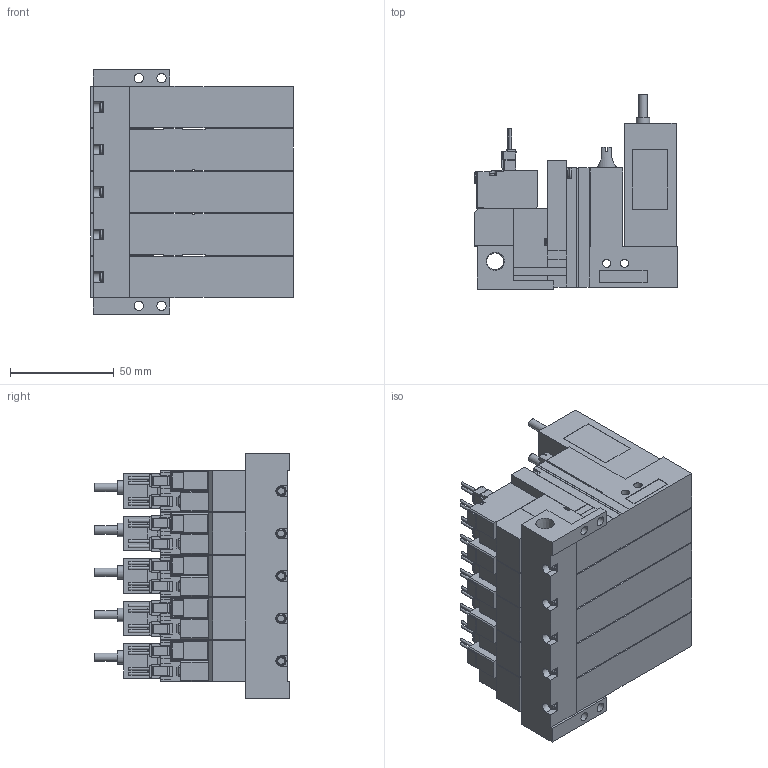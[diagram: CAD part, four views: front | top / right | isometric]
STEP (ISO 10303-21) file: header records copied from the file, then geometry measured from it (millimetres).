
FILE_DESCRIPTION(('STEP AP203'),'1');
FILE_NAME('VG_VGPLC5ALR505.stp','2025-02-19T01:08:47',(' '),(' '),'Spatial InterOp 3D',' ',' ');
FILE_SCHEMA(('CONFIG_CONTROL_DESIGN'));
Length unit declared in the file: millimetre
Products named in the file (5): BMC22M※※※※VG_VGPLC5ALR505; Solenoid valve A; Pressure sensor VGLC; Unit LC; Base MR50R
Assembly tree (16 placements, depth 2):
  BMC22M※※※※VG_VGPLC5ALR505
    Solenoid valve A  x5
    Pressure sensor VGLC  x5
    Unit LC  x5
    Base MR50R
Bounding box: 97.6 x 94 x 118 mm (x, y, z)
Volume: 564289 mm3; surface area: 144681.3 mm2
Topology: 16 solids, 16 shells, 2096 faces, 5609 edges, 3690 vertices
Faces by surface type: plane 1774, cylinder 260, cone 37, torus 25
Full cylindrical faces by diameter (mm): 1.4 x20, 2.5 x15, 3 x20, 3.5 x20, 3.6 x5, 4 x30, 4.134 x5, 4.5 x4, 5.2 x5, 6 x5, 6.5 x5, 6.6 x5, 8.279 x1
Entity records: 15420 total; most frequent: CARTESIAN_POINT 2944, DIRECTION 2453, ORIENTED_EDGE 2422, EDGE_CURVE 1211, LINE 989, VECTOR 989, VERTEX_POINT 842, AXIS2_PLACEMENT_3D 732
